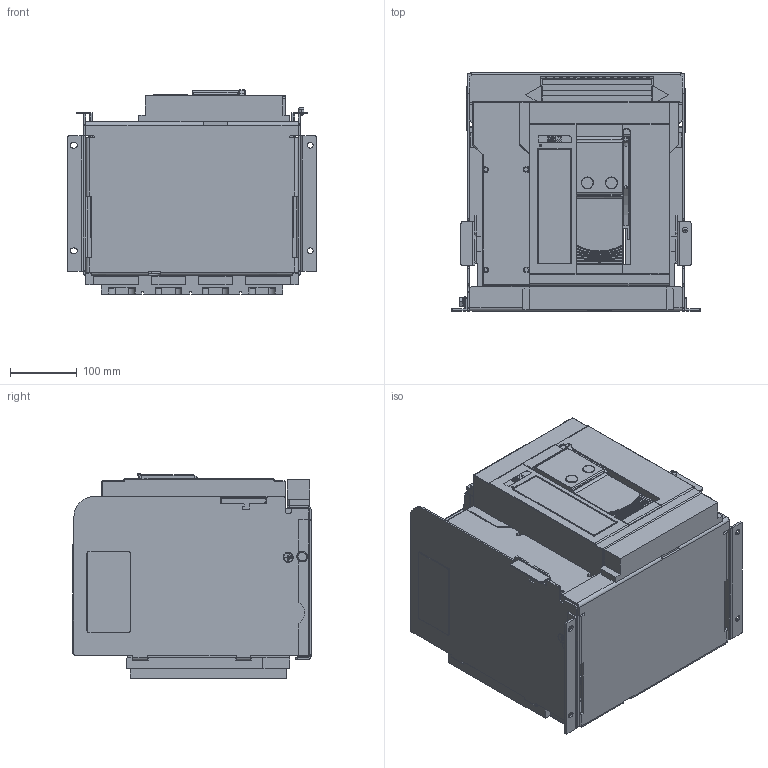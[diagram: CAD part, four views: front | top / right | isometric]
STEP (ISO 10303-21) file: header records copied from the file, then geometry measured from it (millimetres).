
FILE_DESCRIPTION (( 'STEP AP203' ), '1' );
FILE_NAME ('OptiMat A S1-630-1600-4P-D-H.STEP', '2024-06-25T08:21:41', ( '' ), ( '' ), 'SwSTEP 2.0', 'SolidWorks 2018', '' );
FILE_SCHEMA (( 'CONFIG_CONTROL_DESIGN' ));
Products named in the file (1): OptiMat A S1-630-1600-4P-D-H
Bounding box: 372 x 356.5 x 306 mm (x, y, z)
Surface area: 1282040.4 mm2 (no closed solid volume)
Topology: 0 solids, 140 shells, 1526 faces, 10033 edges, 8418 vertices
Faces by surface type: plane 974, cylinder 427, bspline 117, torus 4, cone 4
Entity records: 121847 total; most frequent: CARTESIAN_POINT 52763, ORIENTED_EDGE 12949, DIRECTION 11661, EDGE_CURVE 10023, VERTEX_POINT 8418, LINE 6741, VECTOR 6741, AXIS2_PLACEMENT_3D 2460
